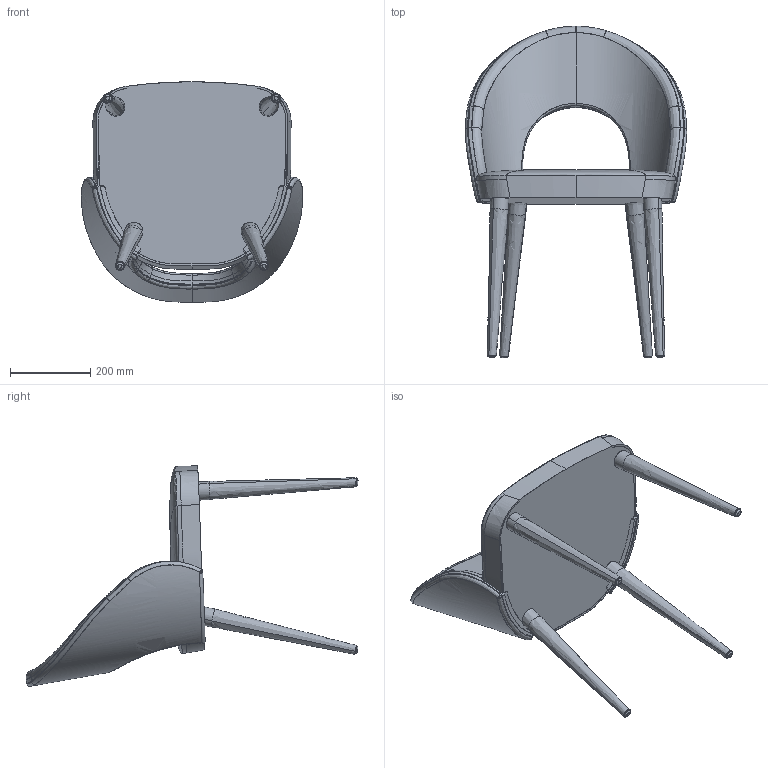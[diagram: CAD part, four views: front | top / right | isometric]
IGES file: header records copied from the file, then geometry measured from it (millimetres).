
Start section: SolidWorks IGES file using analytic representation for surfaces
Global section: file name: \\192.168.0.3\Dados\IP&C\03. Produtos MS\BELLA\03. MARKETING\07. SITE\3D\IGS\BA002.IGS; native system: SolidWorks 2021; preprocessor: SolidWorks 2021; author: Marketing; date: 220624.144931; units: millimetre
Bounding box: 551.74 x 826.87 x 549.02 mm (x, y, z)
Surface area: 1489854.5 mm2 (no closed solid volume)
Topology: 0 solids, 0 shells, 232 faces, 4811 edges, 4799 vertices
Faces by surface type: bspline 206, revolution 26
